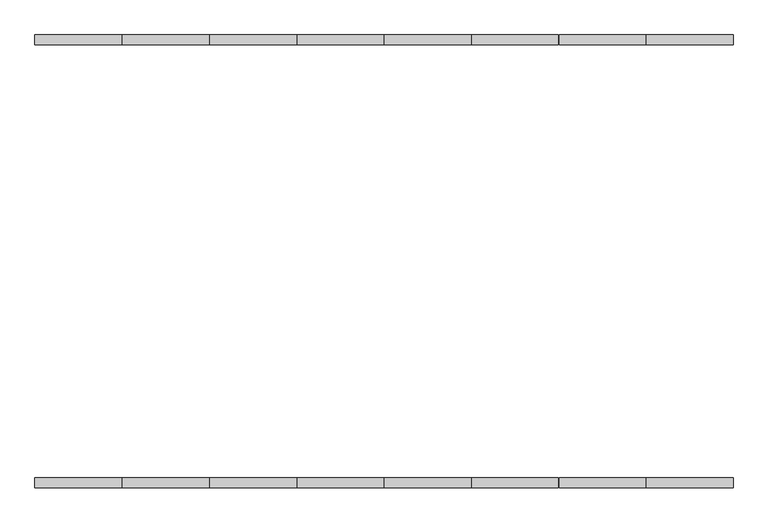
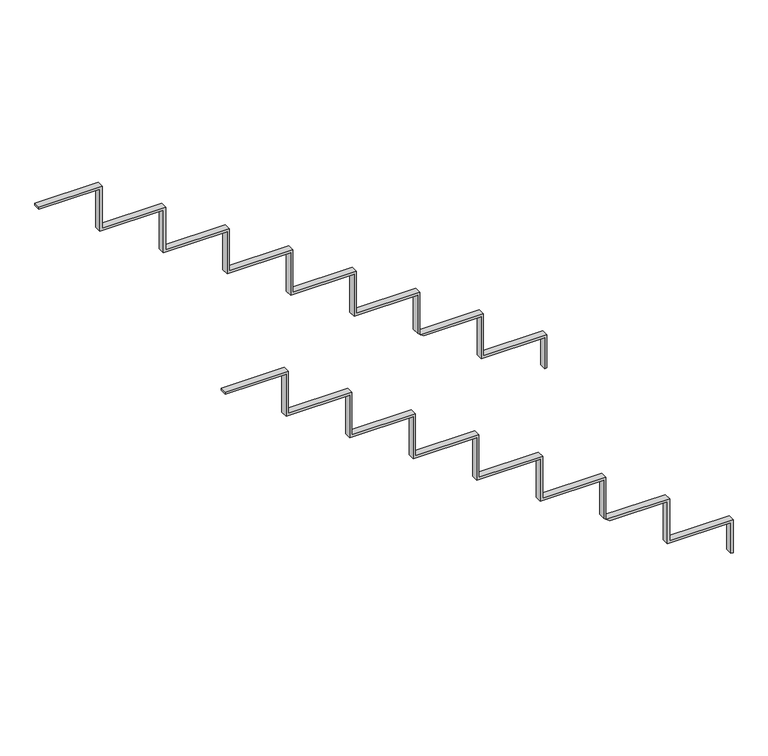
"""IFC4 building model written with IfcOpenShell, lengths in millimetres: beam geometry, Armazón estructural 6 : Armazón estructural 3."""

from ifc_helpers import new_model, si_unit, frame, origin, place, context, project, spatial, polyline, outline, extrude, source, transform, mapped, element, save


def beam_b3c854cd(model_context):
    return source(origin(), model_context, "Body", "SweptSolid", [
        extrude(outline(polyline([(6410.0, 7599.5983807), (6400.0, 7599.5983807), (6400.0, 7858.8126262), (6210.0, 7858.8126262), (6210.0, 8128.8126262), (6020.0, 8128.8126262), (6020.0, 8398.8126262), (5830.0, 8398.8126262), (5830.0, 8668.8126262), (5640.0, 8668.8126262), (5640.0, 8938.8126262), (5450.0, 8938.8126262), (5450.0, 9208.5846014), (5279.6411761, 9208.5846014), (5272.5074162, 9218.5846014), (5460.0, 9218.5846014), (5460.0, 8948.8126262), (5650.0, 8948.8126262), (5650.0, 8678.8126262), (5840.0, 8678.8126262), (5840.0, 8408.8126262), (6030.0, 8408.8126262), (6030.0, 8138.8126262), (6220.0, 8138.8126262), (6220.0, 7868.8126262), (6410.0, 7868.8126262), (6410.0, 7599.5983807)])), frame((0.0, 4844.6072273, 0.0), z_axis=(0.0, 1.0, 0.0), x_axis=(0.0, 0.0, 1.0)), (0.0, 0.0, 1.0), 30.0),
        extrude(outline(polyline([(5270.0, 9488.8126262), (5270.0, 9220.5719888), (5260.0, 9234.7825159), (5260.0, 9478.8126262), (5070.0, 9478.8126262), (5070.0, 9748.8126262), (4932.2004745, 9748.8126262), (4932.2004745, 9758.8126262), (5080.0, 9758.8126262), (5080.0, 9488.8126262), (5270.0, 9488.8126262)])), frame((0.0, 4844.6072273, 0.0), z_axis=(0.0, 1.0, 0.0), x_axis=(0.0, 0.0, 1.0)), (0.0, 0.0, 1.0), 30.0),
        extrude(outline(polyline([(5270.0, 9488.8126262), (5270.0, 9220.5719888), (5260.0, 9234.7825159), (5260.0, 9478.8126262), (5070.0, 9478.8126262), (5070.0, 9748.8126262), (4932.2004745, 9748.8126262), (4932.2004745, 9758.8126262), (5080.0, 9758.8126262), (5080.0, 9488.8126262), (5270.0, 9488.8126262)])), frame((0.0, 6214.6250843, 0.0), z_axis=(0.0, 1.0, 0.0), x_axis=(0.0, 0.0, 1.0)), (0.0, 0.0, 1.0), 30.0),
        extrude(outline(polyline([(6410.0, 7599.5983807), (6400.0, 7599.5983807), (6400.0, 7858.8126262), (6210.0, 7858.8126262), (6210.0, 8128.8126262), (6020.0, 8128.8126262), (6020.0, 8398.8126262), (5830.0, 8398.8126262), (5830.0, 8668.8126262), (5640.0, 8668.8126262), (5640.0, 8938.8126262), (5450.0, 8938.8126262), (5450.0, 9208.5846014), (5279.6411761, 9208.5846014), (5272.5074162, 9218.5846014), (5460.0, 9218.5846014), (5460.0, 8948.8126262), (5650.0, 8948.8126262), (5650.0, 8678.8126262), (5840.0, 8678.8126262), (5840.0, 8408.8126262), (6030.0, 8408.8126262), (6030.0, 8138.8126262), (6220.0, 8138.8126262), (6220.0, 7868.8126262), (6410.0, 7868.8126262), (6410.0, 7599.5983807)])), frame((0.0, 6214.6250843, 0.0), z_axis=(0.0, 1.0, 0.0), x_axis=(0.0, 0.0, 1.0)), (0.0, 0.0, 1.0), 30.0),
    ])


if __name__ == "__main__":
    model = new_model("IFC4")
    model_context = context("Model", 3, world=origin())
    ifc_project = project(units=[si_unit("LENGTHUNIT", "METRE", prefix="MILLI")], contexts=[model_context])
    site = spatial("IfcSite", under=ifc_project)
    building = spatial("IfcBuilding", under=site)
    placement = place(None, origin())
    beam_shape = beam_b3c854cd(model_context)
    element("IfcBeam", 1, ObjectType="Armazón estructural 6 : Armazón estructural 3", at=placement, inside=building, context=model_context, shape_type="MappedRepresentation", body=[
        mapped(beam_shape, transform((0.0, 0.0, 0.0), x_axis=(1.0, 0.0, 0.0), y_axis=(0.0, 1.0, 0.0), z_axis=(0.0, 0.0, 1.0))),
    ])
    save(model, "model.ifc")
